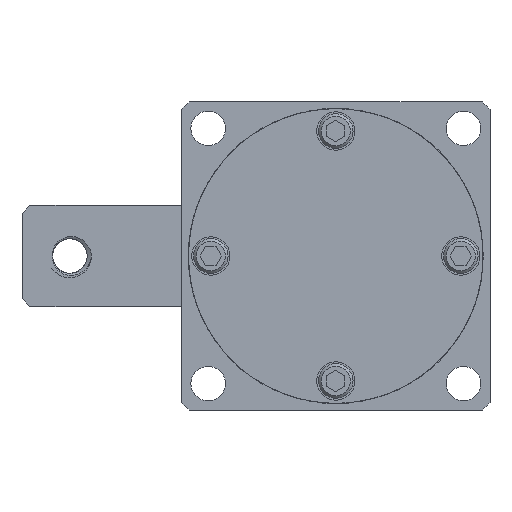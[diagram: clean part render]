
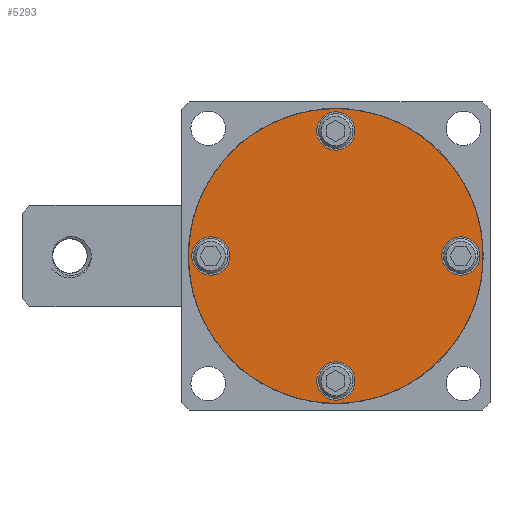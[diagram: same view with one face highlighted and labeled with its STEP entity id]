
A CAD part, front view. The second image highlights one B-rep face of the part: STEP entity #5293.
In plain terms, the highlighted planar face has unit normal (0, -1, 0).
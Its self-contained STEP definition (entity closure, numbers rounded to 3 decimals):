
#187=FACE_BOUND('',#714,.T.);
#188=FACE_BOUND('',#715,.T.);
#189=FACE_BOUND('',#716,.T.);
#190=FACE_BOUND('',#717,.T.);
#239=PLANE('',#5764);
#391=FACE_OUTER_BOUND('',#713,.T.);
#713=EDGE_LOOP('',(#3986,#3987));
#714=EDGE_LOOP('',(#3988,#3989));
#715=EDGE_LOOP('',(#3990,#3991));
#716=EDGE_LOOP('',(#3992,#3993));
#717=EDGE_LOOP('',(#3994,#3995));
#1371=CIRCLE('',#5765,27.75);
#1372=CIRCLE('',#5766,27.75);
#1373=CIRCLE('',#5767,3.6);
#1374=CIRCLE('',#5768,3.6);
#1375=CIRCLE('',#5769,3.6);
#1376=CIRCLE('',#5770,3.6);
#1377=CIRCLE('',#5771,3.6);
#1378=CIRCLE('',#5772,3.6);
#1379=CIRCLE('',#5773,3.6);
#1380=CIRCLE('',#5774,3.6);
#2237=VERTEX_POINT('',#17830);
#2238=VERTEX_POINT('',#17831);
#2239=VERTEX_POINT('',#17834);
#2240=VERTEX_POINT('',#17835);
#2241=VERTEX_POINT('',#17838);
#2242=VERTEX_POINT('',#17839);
#2243=VERTEX_POINT('',#17842);
#2244=VERTEX_POINT('',#17843);
#2245=VERTEX_POINT('',#17846);
#2246=VERTEX_POINT('',#17847);
#2881=EDGE_CURVE('',#2237,#2238,#1371,.T.);
#2882=EDGE_CURVE('',#2238,#2237,#1372,.T.);
#2883=EDGE_CURVE('',#2239,#2240,#1373,.T.);
#2884=EDGE_CURVE('',#2240,#2239,#1374,.T.);
#2885=EDGE_CURVE('',#2241,#2242,#1375,.T.);
#2886=EDGE_CURVE('',#2242,#2241,#1376,.T.);
#2887=EDGE_CURVE('',#2243,#2244,#1377,.T.);
#2888=EDGE_CURVE('',#2244,#2243,#1378,.T.);
#2889=EDGE_CURVE('',#2245,#2246,#1379,.T.);
#2890=EDGE_CURVE('',#2246,#2245,#1380,.T.);
#3986=ORIENTED_EDGE('',*,*,#2881,.F.);
#3987=ORIENTED_EDGE('',*,*,#2882,.F.);
#3988=ORIENTED_EDGE('',*,*,#2883,.F.);
#3989=ORIENTED_EDGE('',*,*,#2884,.F.);
#3990=ORIENTED_EDGE('',*,*,#2885,.F.);
#3991=ORIENTED_EDGE('',*,*,#2886,.F.);
#3992=ORIENTED_EDGE('',*,*,#2887,.F.);
#3993=ORIENTED_EDGE('',*,*,#2888,.F.);
#3994=ORIENTED_EDGE('',*,*,#2889,.F.);
#3995=ORIENTED_EDGE('',*,*,#2890,.F.);
#5293=ADVANCED_FACE('',(#391,#187,#188,#189,#190),#239,.F.);
#5764=AXIS2_PLACEMENT_3D('',#17829,#6444,#6445);
#5765=AXIS2_PLACEMENT_3D('',#17832,#6446,#6447);
#5766=AXIS2_PLACEMENT_3D('',#17833,#6448,#6449);
#5767=AXIS2_PLACEMENT_3D('',#17836,#6450,#6451);
#5768=AXIS2_PLACEMENT_3D('',#17837,#6452,#6453);
#5769=AXIS2_PLACEMENT_3D('',#17840,#6454,#6455);
#5770=AXIS2_PLACEMENT_3D('',#17841,#6456,#6457);
#5771=AXIS2_PLACEMENT_3D('',#17844,#6458,#6459);
#5772=AXIS2_PLACEMENT_3D('',#17845,#6460,#6461);
#5773=AXIS2_PLACEMENT_3D('',#17848,#6462,#6463);
#5774=AXIS2_PLACEMENT_3D('',#17849,#6464,#6465);
#6444=DIRECTION('center_axis',(0.,1.,0.));
#6445=DIRECTION('ref_axis',(1.,0.,0.));
#6446=DIRECTION('center_axis',(0.,1.,0.));
#6447=DIRECTION('ref_axis',(1.,0.,0.));
#6448=DIRECTION('center_axis',(0.,1.,0.));
#6449=DIRECTION('ref_axis',(1.,0.,0.));
#6450=DIRECTION('center_axis',(0.,-1.,0.));
#6451=DIRECTION('ref_axis',(-1.,0.,0.));
#6452=DIRECTION('center_axis',(0.,-1.,0.));
#6453=DIRECTION('ref_axis',(-1.,0.,0.));
#6454=DIRECTION('center_axis',(0.,-1.,0.));
#6455=DIRECTION('ref_axis',(0.,0.,1.));
#6456=DIRECTION('center_axis',(0.,-1.,0.));
#6457=DIRECTION('ref_axis',(0.,0.,1.));
#6458=DIRECTION('center_axis',(0.,-1.,0.));
#6459=DIRECTION('ref_axis',(1.,0.,0.));
#6460=DIRECTION('center_axis',(0.,-1.,0.));
#6461=DIRECTION('ref_axis',(1.,0.,0.));
#6462=DIRECTION('center_axis',(0.,-1.,0.));
#6463=DIRECTION('ref_axis',(0.,0.,-1.));
#6464=DIRECTION('center_axis',(0.,-1.,0.));
#6465=DIRECTION('ref_axis',(0.,0.,-1.));
#17829=CARTESIAN_POINT('Origin',(0.,0.,0.));
#17830=CARTESIAN_POINT('',(27.75,0.,0.));
#17831=CARTESIAN_POINT('',(-27.75,0.,0.));
#17832=CARTESIAN_POINT('Origin',(0.,0.,0.));
#17833=CARTESIAN_POINT('Origin',(0.,0.,0.));
#17834=CARTESIAN_POINT('',(-20.217,0.,-16.617));
#17835=CARTESIAN_POINT('',(-13.017,0.,-16.617));
#17836=CARTESIAN_POINT('Origin',(-16.617,0.,-16.617));
#17837=CARTESIAN_POINT('Origin',(-16.617,0.,-16.617));
#17838=CARTESIAN_POINT('',(-16.617,0.,20.217));
#17839=CARTESIAN_POINT('',(-16.617,0.,13.017));
#17840=CARTESIAN_POINT('Origin',(-16.617,0.,16.617));
#17841=CARTESIAN_POINT('Origin',(-16.617,0.,16.617));
#17842=CARTESIAN_POINT('',(20.217,0.,16.617));
#17843=CARTESIAN_POINT('',(13.017,0.,16.617));
#17844=CARTESIAN_POINT('Origin',(16.617,0.,16.617));
#17845=CARTESIAN_POINT('Origin',(16.617,0.,16.617));
#17846=CARTESIAN_POINT('',(16.617,0.,-20.217));
#17847=CARTESIAN_POINT('',(16.617,0.,-13.017));
#17848=CARTESIAN_POINT('Origin',(16.617,0.,-16.617));
#17849=CARTESIAN_POINT('Origin',(16.617,0.,-16.617));
